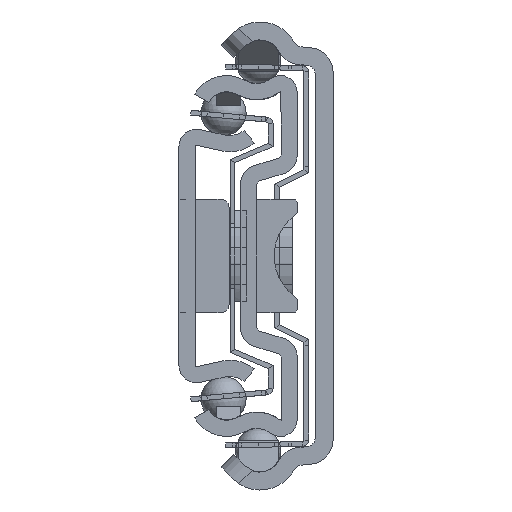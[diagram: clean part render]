
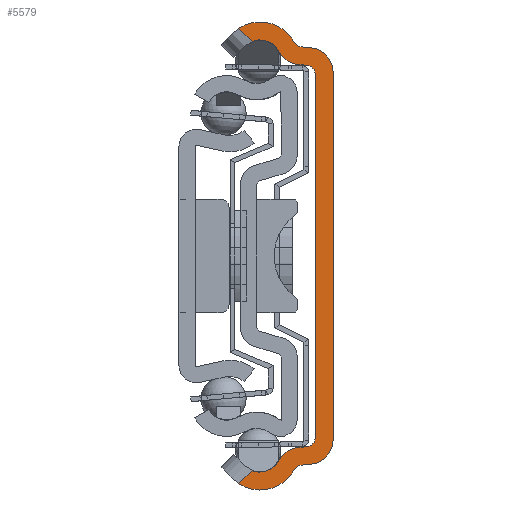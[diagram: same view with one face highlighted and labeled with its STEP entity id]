
A CAD part, left-side view. The second image highlights one B-rep face of the part: STEP entity #5579.
In plain terms, the highlighted planar face has unit normal (-1, 0, 0).
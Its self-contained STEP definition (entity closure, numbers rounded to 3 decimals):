
#1=DIRECTION('',(0.,0.717,-0.697));
#2=VECTOR('',#1,2.305);
#3=CARTESIAN_POINT('',(0.,9.972,-26.461));
#4=LINE('',#3,#2);
#5=CARTESIAN_POINT('',(0.,9.,-24.05));
#6=DIRECTION('',(-1.,0.,0.));
#7=DIRECTION('',(0.,0.374,-0.927));
#8=AXIS2_PLACEMENT_3D('',#5,#6,#7);
#10=CARTESIAN_POINT('',(0.,4.005,-26.582));
#11=DIRECTION('',(-1.,0.,0.));
#12=DIRECTION('',(0.,0.07,0.998));
#13=AXIS2_PLACEMENT_3D('',#10,#11,#12);
#15=DIRECTION('',(0.,-0.998,0.07));
#16=VECTOR('',#15,1.087);
#17=CARTESIAN_POINT('',(0.,4.214,-23.589));
#18=LINE('',#17,#16);
#19=DIRECTION('',(0.,0.,1.));
#20=VECTOR('',#19,45.032);
#21=CARTESIAN_POINT('',(0.,2.2,-22.516));
#22=LINE('',#21,#20);
#23=DIRECTION('',(0.,0.998,0.07));
#24=VECTOR('',#23,1.087);
#25=CARTESIAN_POINT('',(0.,3.13,23.514));
#26=LINE('',#25,#24);
#27=CARTESIAN_POINT('',(0.,4.005,26.582));
#28=DIRECTION('',(-1.,0.,0.));
#29=DIRECTION('',(0.,0.892,-0.452));
#30=AXIS2_PLACEMENT_3D('',#27,#28,#29);
#32=CARTESIAN_POINT('',(0.,9.,24.05));
#33=DIRECTION('',(-1.,0.,0.));
#34=DIRECTION('',(0.,-0.892,0.452));
#35=AXIS2_PLACEMENT_3D('',#32,#33,#34);
#37=DIRECTION('',(0.,-0.717,-0.697));
#38=VECTOR('',#37,2.305);
#39=CARTESIAN_POINT('',(0.,11.624,28.069));
#40=LINE('',#39,#38);
#41=CARTESIAN_POINT('',(0.,9.,24.05));
#42=DIRECTION('',(1.,0.,0.));
#43=DIRECTION('',(0.,0.547,0.837));
#44=AXIS2_PLACEMENT_3D('',#41,#42,#43);
#46=DIRECTION('',(0.,-0.998,-0.07));
#47=VECTOR('',#46,1.161);
#48=CARTESIAN_POINT('',(0.,3.949,25.776));
#49=LINE('',#48,#47);
#50=CARTESIAN_POINT('',(0.,3.,22.702));
#51=DIRECTION('',(-1.,0.,0.));
#52=DIRECTION('',(0.,-1.,0.));
#53=AXIS2_PLACEMENT_3D('',#50,#51,#52);
#55=DIRECTION('',(0.,0.,-1.));
#56=VECTOR('',#55,45.405);
#57=CARTESIAN_POINT('',(0.,0.,22.702));
#58=LINE('',#57,#56);
#59=CARTESIAN_POINT('',(0.,3.,-22.702));
#60=DIRECTION('',(-1.,0.,0.));
#61=DIRECTION('',(0.,-0.07,-0.998));
#62=AXIS2_PLACEMENT_3D('',#59,#60,#61);
#64=DIRECTION('',(0.,0.998,-0.07));
#65=VECTOR('',#64,1.161);
#66=CARTESIAN_POINT('',(0.,2.791,-25.695));
#67=LINE('',#66,#65);
#68=CARTESIAN_POINT('',(0.,9.,-24.05));
#69=DIRECTION('',(1.,0.,0.));
#70=DIRECTION('',(0.,-0.883,-0.47));
#71=AXIS2_PLACEMENT_3D('',#68,#69,#70);
#79=CARTESIAN_POINT('',(0.,11.624,
-28.069));
#134=CARTESIAN_POINT('',(0.,9.972,-26.461));
#367=CARTESIAN_POINT('',(0.,11.624,28.069));
#373=CARTESIAN_POINT('',(0.,3.879,26.774));
#374=DIRECTION('',(1.,0.,0.));
#375=DIRECTION('',(0.,0.07,-0.998));
#376=AXIS2_PLACEMENT_3D('',#373,#374,#375);
#1379=CARTESIAN_POINT('',(0.,3.879,-26.774));
#1380=DIRECTION('',(1.,0.,0.));
#1381=DIRECTION('',(0.,0.883,0.47));
#1382=AXIS2_PLACEMENT_3D('',#1379,#1380,#1381);
#2454=CARTESIAN_POINT('',(0.,3.2,-22.516));
#2455=DIRECTION('',(1.,0.,0.));
#2456=DIRECTION('',(0.,-1.,0.));
#2457=AXIS2_PLACEMENT_3D('',#2454,#2455,#2456);
#2472=CARTESIAN_POINT('',(0.,3.2,22.516));
#2473=DIRECTION('',(1.,0.,0.));
#2474=DIRECTION('',(0.,-0.07,0.998));
#2475=AXIS2_PLACEMENT_3D('',#2472,#2473,#2474);
#2510=CARTESIAN_POINT('',(0.,9.972,26.461));
#4365=CARTESIAN_POINT('',(0.,2.2,-22.516));
#4367=VERTEX_POINT('',#4365);
#4369=CARTESIAN_POINT('',(0.,3.13,-23.514));
#4371=VERTEX_POINT('',#4369);
#4373=CARTESIAN_POINT('',(0.,3.13,23.514));
#4375=VERTEX_POINT('',#4373);
#4377=CARTESIAN_POINT('',(0.,2.2,22.516));
#4379=VERTEX_POINT('',#4377);
#4381=CARTESIAN_POINT('',(0.,3.949,25.776));
#4383=VERTEX_POINT('',#4381);
#4385=CARTESIAN_POINT('',(0.,4.762,26.304));
#4387=VERTEX_POINT('',#4385);
#4389=CARTESIAN_POINT('',(0.,4.762,-26.304));
#4391=VERTEX_POINT('',#4389);
#4393=CARTESIAN_POINT('',(0.,3.949,-25.776));
#4395=VERTEX_POINT('',#4393);
#4397=CARTESIAN_POINT('',(0.,4.214,-23.589));
#4398=CARTESIAN_POINT('',(0.,6.681,-25.226));
#4399=VERTEX_POINT('',#4397);
#4400=VERTEX_POINT('',#4398);
#4405=CARTESIAN_POINT('',(0.,6.681,25.226));
#4406=CARTESIAN_POINT('',(0.,4.214,23.589));
#4407=VERTEX_POINT('',#4405);
#4408=VERTEX_POINT('',#4406);
#4413=CARTESIAN_POINT('',(0.,0.,22.702));
#4414=CARTESIAN_POINT('',(0.,2.791,25.695));
#4415=VERTEX_POINT('',#4413);
#4416=VERTEX_POINT('',#4414);
#4421=CARTESIAN_POINT('',(0.,2.791,-25.695));
#4422=CARTESIAN_POINT('',(0.,0.,-22.702));
#4423=VERTEX_POINT('',#4421);
#4424=VERTEX_POINT('',#4422);
#5059=VERTEX_POINT('',#79);
#5067=VERTEX_POINT('',#134);
#5068=VERTEX_POINT('',#2510);
#5076=VERTEX_POINT('',#367);
#5532=CARTESIAN_POINT('',(0.,0.,0.));
#5533=DIRECTION('',(1.,0.,0.));
#5534=DIRECTION('',(0.,-1.,0.));
#5535=AXIS2_PLACEMENT_3D('',#5532,#5533,#5534);
#5536=PLANE('',#5535);
#5538=ORIENTED_EDGE('',*,*,#5537,.F.);
#5540=ORIENTED_EDGE('',*,*,#5539,.T.);
#5542=ORIENTED_EDGE('',*,*,#5541,.F.);
#5544=ORIENTED_EDGE('',*,*,#5543,.T.);
#5546=ORIENTED_EDGE('',*,*,#5545,.F.);
#5548=ORIENTED_EDGE('',*,*,#5547,.T.);
#5550=ORIENTED_EDGE('',*,*,#5549,.F.);
#5552=ORIENTED_EDGE('',*,*,#5551,.T.);
#5554=ORIENTED_EDGE('',*,*,#5553,.F.);
#5556=ORIENTED_EDGE('',*,*,#5555,.T.);
#5558=ORIENTED_EDGE('',*,*,#5557,.F.);
#5560=ORIENTED_EDGE('',*,*,#5559,.T.);
#5562=ORIENTED_EDGE('',*,*,#5561,.F.);
#5564=ORIENTED_EDGE('',*,*,#5563,.T.);
#5566=ORIENTED_EDGE('',*,*,#5565,.F.);
#5568=ORIENTED_EDGE('',*,*,#5567,.T.);
#5570=ORIENTED_EDGE('',*,*,#5569,.F.);
#5572=ORIENTED_EDGE('',*,*,#5571,.T.);
#5574=ORIENTED_EDGE('',*,*,#5573,.F.);
#5576=ORIENTED_EDGE('',*,*,#5575,.T.);
#5577=EDGE_LOOP('',(#5538,#5540,#5542,#5544,#5546,#5548,#5550,#5552,#5554,#5556,
#5558,#5560,#5562,#5564,#5566,#5568,#5570,#5572,#5574,#5576));
#5578=FACE_OUTER_BOUND('',#5577,.F.);
#9=CIRCLE('',#8,2.6);
#14=CIRCLE('',#13,3.);
#31=CIRCLE('',#30,3.);
#36=CIRCLE('',#35,2.6);
#45=CIRCLE('',#44,4.8);
#54=CIRCLE('',#53,3.);
#63=CIRCLE('',#62,3.);
#72=CIRCLE('',#71,4.8);
#377=CIRCLE('',#376,1.);
#1383=CIRCLE('',#1382,1.);
#2458=CIRCLE('',#2457,1.);
#2476=CIRCLE('',#2475,1.);
#5537=EDGE_CURVE('',#5067,#5059,#4,.T.);
#5539=EDGE_CURVE('',#5067,#4400,#9,.T.);
#5541=EDGE_CURVE('',#4399,#4400,#14,.T.);
#5543=EDGE_CURVE('',#4399,#4371,#18,.T.);
#5545=EDGE_CURVE('',#4367,#4371,#2458,.T.);
#5547=EDGE_CURVE('',#4367,#4379,#22,.T.);
#5549=EDGE_CURVE('',#4375,#4379,#2476,.T.);
#5551=EDGE_CURVE('',#4375,#4408,#26,.T.);
#5553=EDGE_CURVE('',#4407,#4408,#31,.T.);
#5555=EDGE_CURVE('',#4407,#5068,#36,.T.);
#5557=EDGE_CURVE('',#5076,#5068,#40,.T.);
#5559=EDGE_CURVE('',#5076,#4387,#45,.T.);
#5561=EDGE_CURVE('',#4383,#4387,#377,.T.);
#5563=EDGE_CURVE('',#4383,#4416,#49,.T.);
#5565=EDGE_CURVE('',#4415,#4416,#54,.T.);
#5567=EDGE_CURVE('',#4415,#4424,#58,.T.);
#5569=EDGE_CURVE('',#4423,#4424,#63,.T.);
#5571=EDGE_CURVE('',#4423,#4395,#67,.T.);
#5573=EDGE_CURVE('',#4391,#4395,#1383,.T.);
#5575=EDGE_CURVE('',#4391,#5059,#72,.T.);
#5579=ADVANCED_FACE('',(#5578),#5536,.F.);
